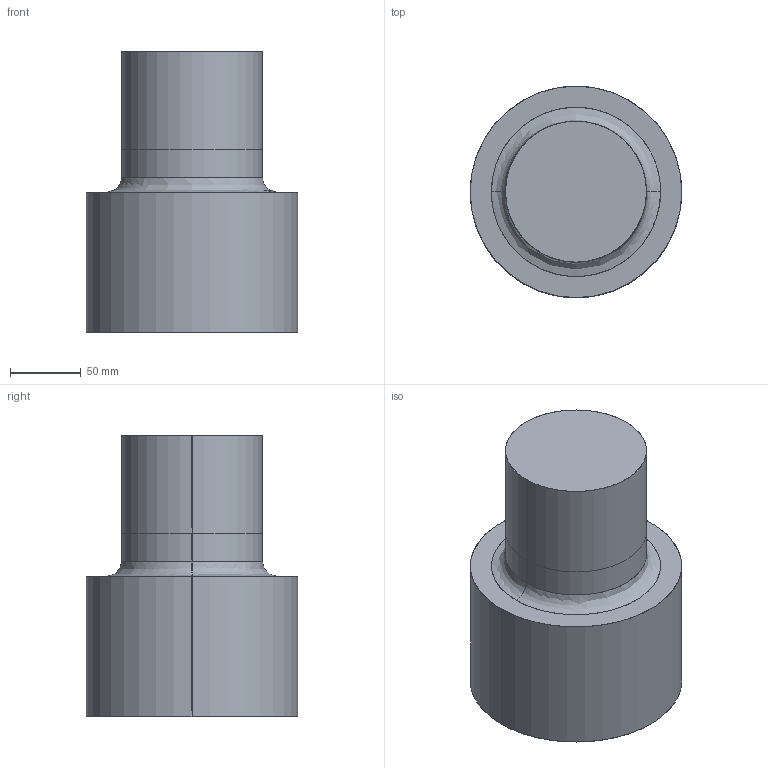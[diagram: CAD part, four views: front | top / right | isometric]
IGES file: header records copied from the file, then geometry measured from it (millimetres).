
Start section: SolidWorks IGES file using analytic representation for surfaces
Global section: file name: C:\Users\Santus\Desktop\Albero.IGS; native system: SolidWorks 2016; preprocessor: SolidWorks 2016; author: Santus; date: 171127.153928; units: millimetre
Bounding box: 150 x 150 x 200 mm (x, y, z)
Surface area: 112578.9 mm2 (no closed solid volume)
Topology: 0 solids, 0 shells, 11 faces, 288 edges, 288 vertices
Faces by surface type: revolution 6, bspline 5
